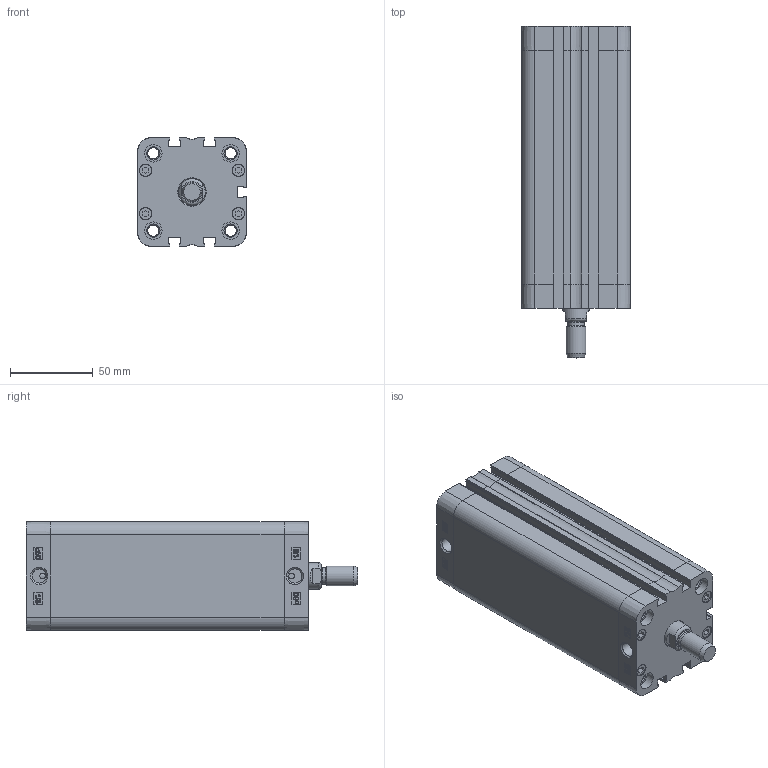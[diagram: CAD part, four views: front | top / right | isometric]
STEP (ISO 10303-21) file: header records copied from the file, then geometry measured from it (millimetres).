
FILE_DESCRIPTION((''),'2;1');
FILE_NAME('T:\Archivio Inventor\- CATALOGHI 2012\SERIE P - NUOVA\PDM\PDM050\PDM050.---.GS.M\PDM050.125.GS.M.stp','2013-02-01T12:21:50',('Administrator'),(''),'Autodesk Inventor 2012','Autodesk Inventor 2012','');
FILE_SCHEMA(('CONFIG_CONTROL_DESIGN'));
Length unit declared in the file: millimetre
Products named in the file (1): PDM050.125.GS.M
Bounding box: 65.5 x 200 x 65.5 mm (x, y, z)
Volume: 325720.1 mm3; surface area: 129384.5 mm2
Topology: 2 solids, 6 shells, 780 faces, 1860 edges, 1167 vertices
Faces by surface type: plane 335, bspline 196, cylinder 131, torus 56, cone 46, sphere 16
Full cylindrical faces by diameter (mm): 3.5 x2, 5.2 x4, 6.647 x8, 7.5 x8, 7.7 x8, 8.047 x4, 8.566 x2, 10 x1, 10.5 x8, 12 x2, 16 x1, 16.5 x1, 50 x1, 52.4 x1, 52.6 x1
Entity records: 25589 total; most frequent: CARTESIAN_POINT 8474, ORIENTED_EDGE 3488, DIRECTION 2866, EDGE_CURVE 1744, VERTEX_POINT 1148, AXIS2_PLACEMENT_3D 978, EDGE_LOOP 962, VECTOR 910
